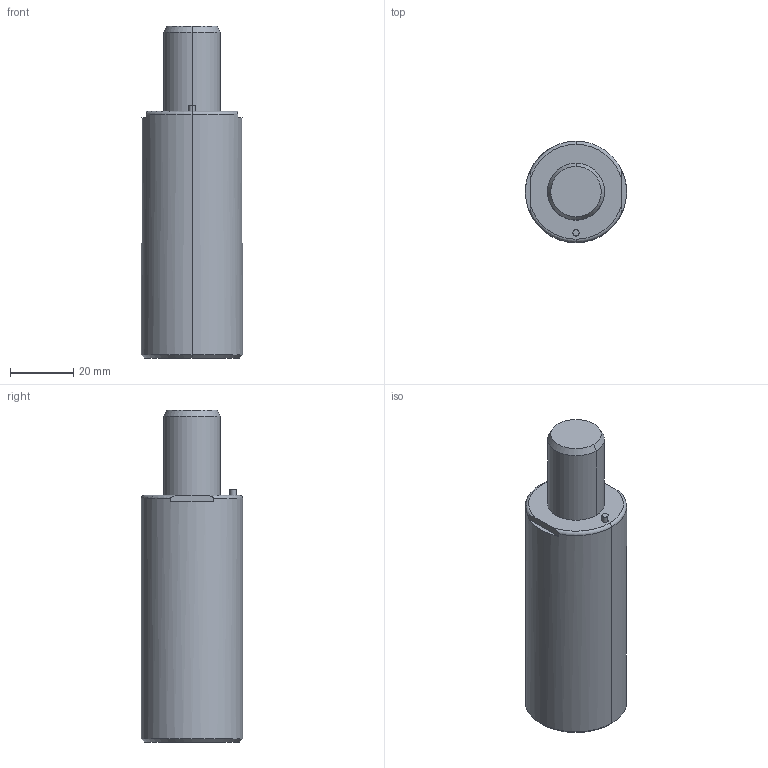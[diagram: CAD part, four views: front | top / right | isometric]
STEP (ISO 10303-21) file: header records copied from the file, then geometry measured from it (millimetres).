
FILE_DESCRIPTION(/* description */ (''),/* implementation_level */ '2;1');
FILE_NAME(/* name */ '3d_gsx32-25_03995_r00.stp',/* time_stamp */ '2011-01-10T14:15:14+09:00',/* author */ ('MISUMI'),/* organization */ (''),/* preprocessor_version */ 'ST-DEVELOPER v11',/* originating_system */ 'UGS - NX 5.0',/* authorisation */ '');
FILE_SCHEMA (('CONFIG_CONTROL_DESIGN'));
Length unit declared in the file: millimetre
Products named in the file (1): 3d_gsx32-25_03995_r00
Bounding box: 32 x 32 x 105 mm (x, y, z)
Volume: 68161.7 mm3; surface area: 11730.6 mm2
Topology: 1 solids, 1 shells, 45 faces, 98 edges, 60 vertices
Faces by surface type: cylinder 20, plane 13, cone 8, torus 4
Entity records: 1324 total; most frequent: DIRECTION 236, CARTESIAN_POINT 228, ORIENTED_EDGE 188, AXIS2_PLACEMENT_3D 100, EDGE_CURVE 94, VERTEX_POINT 60, EDGE_LOOP 54, CIRCLE 54
